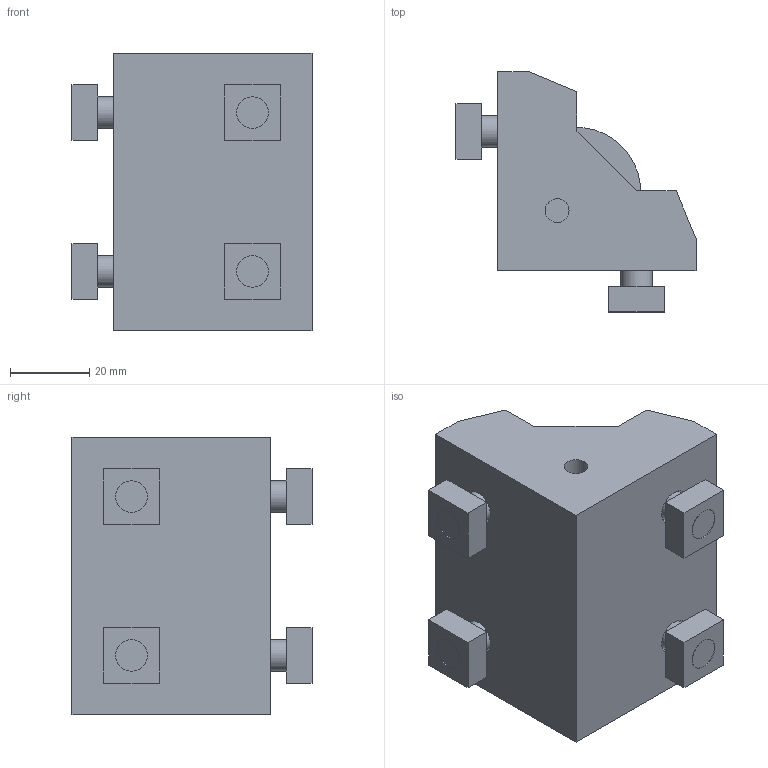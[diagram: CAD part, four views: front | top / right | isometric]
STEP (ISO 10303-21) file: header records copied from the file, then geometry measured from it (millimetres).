
FILE_DESCRIPTION((''),'2;1');
FILE_NAME('C:\Documents and Settings\AMS8\デスクトップ\2013from西村作業用\【3D】M8シリーズブラケット\ABLD-80-8-T\ABLD-80-8-T.stp','2013-08-20T17:40:14',('AMS8'),(''),'Autodesk Inventor 2008','Autodesk Inventor 2008','');
FILE_SCHEMA(('AUTOMOTIVE_DESIGN { 1 0 10303 214 1 1 1 1 }'));
Length unit declared in the file: millimetre
Products named in the file (10): ABLD-80-8-T; NONE; NONEA; NONEB; NONEC; NONED; NONEE; NONEF; NONEG; NONEH
Assembly tree (9 placements, depth 2):
  ABLD-80-8-T
    NONE
    NONEA
    NONEB
    NONEC
    NONED
    NONEE
    NONEF
    NONEG
    NONEH
Bounding box: 60.5 x 60.5 x 70 mm (x, y, z)
Volume: 82573.6 mm3; surface area: 30126.7 mm2
Topology: 9 solids, 9 shells, 86 faces, 180 edges, 120 vertices
Faces by surface type: plane 64, cylinder 22
Full cylindrical faces by diameter (mm): 6 x1, 8 x8, 9 x4, 13 x4, 18 x4
Entity records: 2511 total; most frequent: DIRECTION 413, CARTESIAN_POINT 384, ORIENTED_EDGE 318, EDGE_CURVE 159, AXIS2_PLACEMENT_3D 149, EDGE_LOOP 133, VERTEX_POINT 120, VECTOR 115
